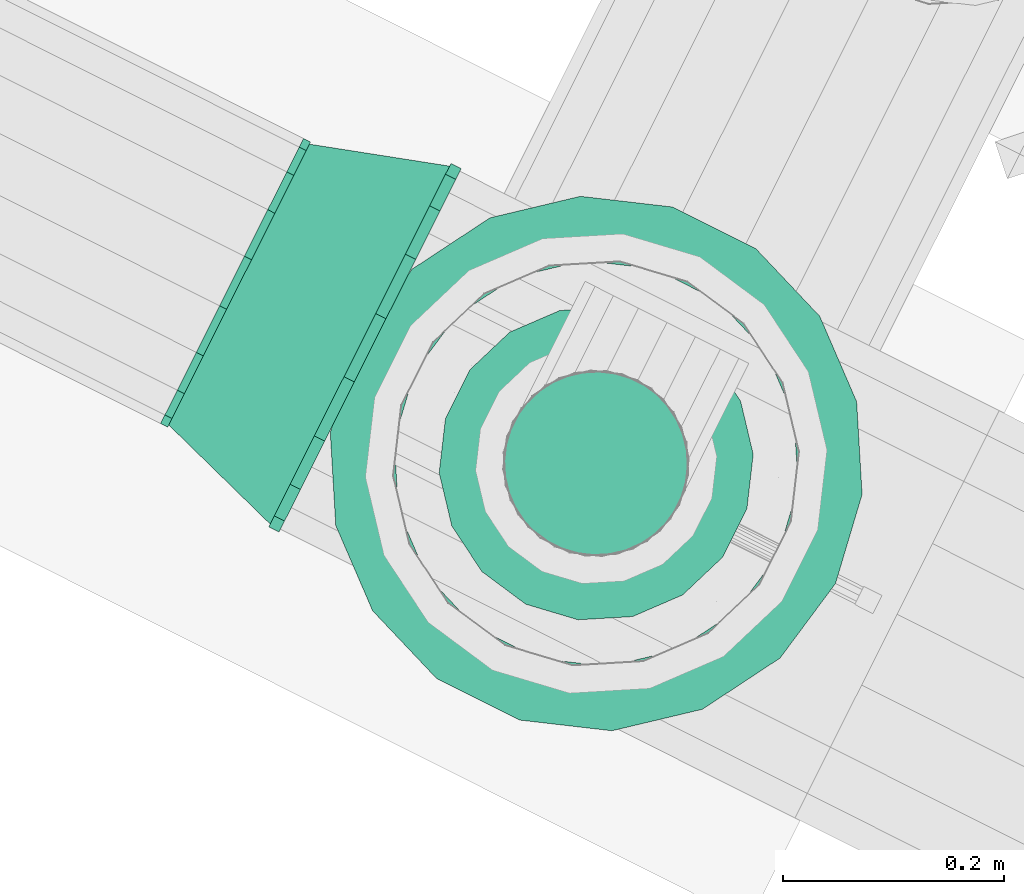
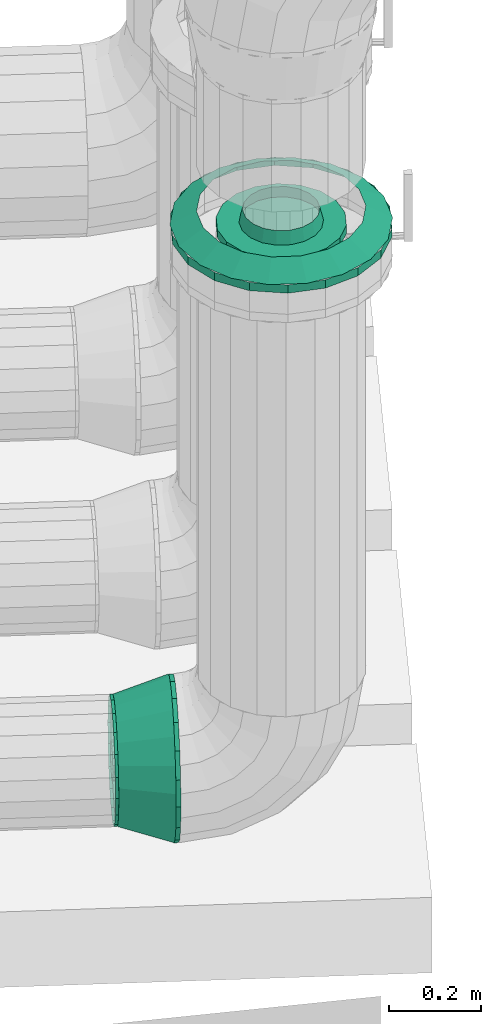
# One storey, part 19 of 152: 2 flow fittings.
"""IFC2X3 building model written with IfcOpenShell, lengths in metres."""

from ifc_helpers import new_model, si_unit, derived_unit, direction, frame, origin, place, context, subcontext, project, spatial, face_set, surface_model, source, transform, mapped, material, type_object, type_shapes, element, save


model = new_model("IFC2X3")

# Units and contexts
model_context = context("Model", 3, precision=5.2338327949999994e-05, world=origin(), true_north=direction((0.0, 1.0)))
body_context = subcontext(model_context, "Body", "Model", "MODEL_VIEW")
ifc_project = project(units=[si_unit("LENGTHUNIT", "METRE"), si_unit("AREAUNIT", "SQUARE_METRE"), si_unit("VOLUMEUNIT", "CUBIC_METRE"), si_unit("MASSUNIT", "GRAM", prefix="KILO"), si_unit("PLANEANGLEUNIT", "RADIAN"), derived_unit("THERMALTRANSMITTANCEUNIT", [(si_unit("MASSUNIT", "GRAM", prefix="KILO"), 1), (si_unit("THERMODYNAMICTEMPERATUREUNIT", "KELVIN"), -1), (si_unit("TIMEUNIT", "SECOND"), -3)])], contexts=[model_context])

# Site, building, storey
site_placement = place(None, frame((0.0, 0.0, 0.0), z_axis=(0.0, 0.0, 1.0), x_axis=(0.8939966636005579, -0.4480736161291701, 0.0)))
site = spatial("IfcSite", under=ifc_project, at=site_placement, Name="Default", CompositionType="ELEMENT")
building_placement = place(site_placement, origin())
building = spatial("IfcBuilding", under=site, at=building_placement, CompositionType="ELEMENT")
storey_placement = place(building_placement, frame((0.0, 0.0, 2.7499999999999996)))
storey = spatial("IfcBuildingStorey", under=building, at=storey_placement, Name="1. Obergeschoss", CompositionType="ELEMENT", Elevation=2.7499999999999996)

# Flow fittings
ifc_material = material(Name="IfcSurfaceStyle #9317")
distribution_element_type_1 = type_object("IfcDistributionElementType", Name="Übergangsstück 14455:Übergangsstück 14455", material=ifc_material)
shared_shape_1 = source(origin(), body_context, "Body", "SurfaceModel", [
    surface_model("IfcFaceBasedSurfaceModel", [(11.496814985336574, 5.772637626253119, 3.325154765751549), (11.496814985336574, 5.777712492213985, 3.3539357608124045), (11.486355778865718, 5.777712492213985, 3.3539357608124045), (11.486355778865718, 5.77263762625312, 3.3251547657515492), (11.496814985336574, 5.792324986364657, 3.3792453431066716), (11.486355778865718, 5.792324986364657, 3.3792453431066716), (11.496814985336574, 5.814712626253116, 3.398030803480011), (11.486355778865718, 5.814712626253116, 3.398030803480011), (11.496814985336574, 5.842175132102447, 3.4080263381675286), (11.486355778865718, 5.842175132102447, 3.4080263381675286), (11.496814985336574, 5.87140012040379, 3.408026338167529), (11.486355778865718, 5.87140012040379, 3.408026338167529), (11.496814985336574, 5.898862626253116, 3.3980308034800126), (11.486355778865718, 5.898862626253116, 3.3980308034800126), (11.496814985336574, 5.921250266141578, 3.379245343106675), (11.486355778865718, 5.921250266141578, 3.379245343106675), (11.496814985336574, 5.935862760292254, 3.353935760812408), (11.486355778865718, 5.935862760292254, 3.353935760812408), (11.496814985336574, 5.940937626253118, 3.325154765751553), (11.486355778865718, 5.940937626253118, 3.325154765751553), (11.496814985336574, 5.935862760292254, 3.296373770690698), (11.486355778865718, 5.935862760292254, 3.296373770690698), (11.496814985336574, 5.921250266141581, 3.2710641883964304), (11.486355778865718, 5.921250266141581, 3.2710641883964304), (11.496814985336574, 5.89886262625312, 3.2522787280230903), (11.486355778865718, 5.89886262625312, 3.2522787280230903), (11.496814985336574, 5.871400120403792, 3.2422831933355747), (11.486355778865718, 5.871400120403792, 3.2422831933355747), (11.496814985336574, 5.842175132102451, 3.2422831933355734), (11.486355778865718, 5.842175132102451, 3.2422831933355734), (11.496814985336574, 5.814712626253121, 3.2522787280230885), (11.486355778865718, 5.814712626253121, 3.2522787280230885), (11.496814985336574, 5.792324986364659, 3.2710641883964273), (11.486355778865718, 5.792324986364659, 3.2710641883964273), (11.496814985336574, 5.777712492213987, 3.296373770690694), (11.486355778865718, 5.777712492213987, 3.296373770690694), (11.496814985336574, 5.67263762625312, 3.3251547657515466), (11.496814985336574, 5.683743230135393, 3.388137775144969), (11.486355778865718, 5.683743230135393, 3.388137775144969), (11.486355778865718, 5.672637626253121, 3.325154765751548), (11.496814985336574, 5.715720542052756, 3.4435241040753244), (11.486355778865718, 5.715720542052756, 3.4435241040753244), (11.496814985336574, 5.764712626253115, 3.484633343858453), (11.486355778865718, 5.764712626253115, 3.484633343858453), (11.496814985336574, 5.824810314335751, 3.5065071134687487), (11.486355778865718, 5.824810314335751, 3.5065071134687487), (11.496814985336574, 5.888764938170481, 3.5065071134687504), (11.486355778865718, 5.888764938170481, 3.5065071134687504), (11.496814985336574, 5.948862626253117, 3.484633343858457), (11.486355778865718, 5.948862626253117, 3.484633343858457), (11.496814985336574, 5.997854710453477, 3.4435241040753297), (11.486355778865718, 5.997854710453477, 3.4435241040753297), (11.496814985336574, 6.029832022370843, 3.388137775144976), (11.486355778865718, 6.029832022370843, 3.388137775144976), (11.496814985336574, 6.040937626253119, 3.3251547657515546), (11.486355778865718, 6.040937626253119, 3.3251547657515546), (11.496814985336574, 6.029832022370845, 3.262171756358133), (11.486355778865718, 6.029832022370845, 3.262171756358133), (11.496814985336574, 5.997854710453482, 3.206785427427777), (11.486355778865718, 5.997854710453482, 3.206785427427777), (11.496814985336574, 5.9488626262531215, 3.165676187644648), (11.486355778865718, 5.9488626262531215, 3.165676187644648), (11.496814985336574, 5.888764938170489, 3.1438024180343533), (11.486355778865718, 5.888764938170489, 3.1438024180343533), (11.496814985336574, 5.824810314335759, 3.143802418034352), (11.486355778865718, 5.824810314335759, 3.143802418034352), (11.496814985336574, 5.7647126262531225, 3.165676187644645), (11.486355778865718, 5.7647126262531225, 3.165676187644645), (11.496814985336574, 5.715720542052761, 3.2067854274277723), (11.486355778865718, 5.715720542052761, 3.2067854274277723), (11.496814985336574, 5.683743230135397, 3.262171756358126), (11.486355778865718, 5.683743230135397, 3.262171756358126), (11.486355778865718, 5.856787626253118, 3.4093047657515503), (11.486355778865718, 5.885568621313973, 3.404229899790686), (11.363964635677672, 5.871990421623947, 3.366924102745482), (11.363964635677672, 5.856787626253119, 3.3696047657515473), (11.486355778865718, 5.910878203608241, 3.3896174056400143), (11.363964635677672, 5.885359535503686, 3.359205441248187), (11.486355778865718, 5.929663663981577, 3.367229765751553), (11.363964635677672, 5.895282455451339, 3.3473797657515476), (11.486355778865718, 5.939659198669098, 3.339767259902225), (11.363964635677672, 5.900562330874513, 3.3328734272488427), (11.486355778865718, 5.939659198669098, 3.3105422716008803), (11.363964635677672, 5.900562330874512, 3.317436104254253), (11.486355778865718, 5.92966366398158, 3.283079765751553), (11.363964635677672, 5.895282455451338, 3.3029297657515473), (11.486355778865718, 5.910878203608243, 3.26069212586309), (11.363964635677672, 5.885359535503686, 3.291104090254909), (11.486355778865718, 5.885568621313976, 3.246079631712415), (11.363964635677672, 5.871990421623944, 3.283385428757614), (11.486355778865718, 5.856787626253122, 3.24100476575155), (11.363964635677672, 5.856787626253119, 3.280704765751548), (11.486355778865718, 5.828006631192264, 3.2460796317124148), (11.363964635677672, 5.841584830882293, 3.2833854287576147), (11.486355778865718, 5.802697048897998, 3.2606921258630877), (11.363964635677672, 5.828215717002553, 3.2911040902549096), (11.486355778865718, 5.783911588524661, 3.2830797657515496), (11.363964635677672, 5.8182927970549, 3.3029297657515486), (11.486355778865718, 5.773916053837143, 3.310542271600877), (11.363964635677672, 5.813012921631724, 3.317436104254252), (11.486355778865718, 5.7739160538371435, 3.3397672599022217), (11.363964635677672, 5.813012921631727, 3.3328734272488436), (11.486355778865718, 5.783911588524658, 3.367229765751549), (11.363964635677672, 5.8182927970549, 3.347379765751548), (11.486355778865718, 5.802697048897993, 3.3896174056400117), (11.363964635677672, 5.828215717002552, 3.359205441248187), (11.486355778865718, 5.828006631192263, 3.404229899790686), (11.363964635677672, 5.841584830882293, 3.366924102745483), (11.363964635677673, 5.812337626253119, 3.325154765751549), (11.363964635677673, 5.815018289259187, 3.3403575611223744), (11.356814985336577, 5.815018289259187, 3.3403575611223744), (11.356814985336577, 5.812337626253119, 3.325154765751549), (11.363964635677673, 5.82273695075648, 3.353726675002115), (11.356814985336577, 5.82273695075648, 3.353726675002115), (11.363964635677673, 5.834562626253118, 3.3636495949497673), (11.356814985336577, 5.834562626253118, 3.3636495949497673), (11.363964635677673, 5.849068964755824, 3.3689294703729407), (11.356814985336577, 5.849068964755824, 3.3689294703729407), (11.363964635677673, 5.864506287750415, 3.3689294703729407), (11.356814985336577, 5.864506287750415, 3.3689294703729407), (11.363964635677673, 5.87901262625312, 3.3636495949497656), (11.356814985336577, 5.87901262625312, 3.3636495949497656), (11.363964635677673, 5.890838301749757, 3.3537266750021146), (11.356814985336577, 5.890838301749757, 3.3537266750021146), (11.363964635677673, 5.898556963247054, 3.340357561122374), (11.356814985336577, 5.898556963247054, 3.340357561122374), (11.363964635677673, 5.90123762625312, 3.325154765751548), (11.356814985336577, 5.90123762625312, 3.325154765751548), (11.363964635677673, 5.898556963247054, 3.309951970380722), (11.356814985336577, 5.898556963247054, 3.309951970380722), (11.363964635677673, 5.890838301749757, 3.296582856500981), (11.356814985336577, 5.890838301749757, 3.296582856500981), (11.363964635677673, 5.879012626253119, 3.2866599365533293), (11.356814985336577, 5.879012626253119, 3.2866599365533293), (11.363964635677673, 5.864506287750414, 3.2813800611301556), (11.356814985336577, 5.864506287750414, 3.2813800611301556), (11.363964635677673, 5.8490689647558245, 3.2813800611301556), (11.356814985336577, 5.8490689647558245, 3.2813800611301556), (11.363964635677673, 5.834562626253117, 3.2866599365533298), (11.356814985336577, 5.834562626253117, 3.2866599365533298), (11.363964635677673, 5.8227369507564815, 3.296582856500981), (11.356814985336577, 5.8227369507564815, 3.296582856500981), (11.363964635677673, 5.815018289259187, 3.309951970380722), (11.356814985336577, 5.815018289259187, 3.309951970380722), (11.486355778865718, 5.8567876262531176, 3.5093047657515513), (11.486355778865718, 5.919770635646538, 3.498199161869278), (11.363964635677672, 5.906192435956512, 3.460893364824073), (11.363964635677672, 5.856787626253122, 3.469604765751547), (11.486355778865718, 5.975156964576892, 3.466221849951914), (11.363964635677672, 5.949638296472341, 3.4358098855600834), (11.486355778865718, 6.016266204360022, 3.417229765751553), (11.363964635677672, 5.981884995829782, 3.397379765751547), (11.486355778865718, 6.038139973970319, 3.35713207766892), (11.363964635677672, 5.999043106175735, 3.3502382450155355), (11.486355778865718, 6.038139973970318, 3.29317745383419), (11.363964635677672, 5.9990431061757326, 3.300071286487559), (11.486355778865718, 6.016266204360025, 3.2330797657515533), (11.363964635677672, 5.981884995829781, 3.2529297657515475), (11.486355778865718, 5.975156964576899, 3.184087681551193), (11.363964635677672, 5.949638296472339, 3.2144996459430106), (11.486355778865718, 5.919770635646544, 3.152110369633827), (11.363964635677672, 5.906192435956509, 3.1894161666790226), (11.486355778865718, 5.856787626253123, 3.1410047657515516), (11.363964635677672, 5.856787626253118, 3.180704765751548), (11.486355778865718, 5.793804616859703, 3.152110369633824), (11.363964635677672, 5.807382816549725, 3.189416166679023), (11.486355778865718, 5.738418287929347, 3.1840876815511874), (11.363964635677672, 5.7639369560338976, 3.2144996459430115), (11.486355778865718, 5.697309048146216, 3.233079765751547), (11.363964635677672, 5.731690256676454, 3.2529297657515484), (11.486355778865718, 5.675435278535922, 3.2931774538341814), (11.363964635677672, 5.714532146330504, 3.3000712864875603), (11.486355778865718, 5.675435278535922, 3.357132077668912), (11.363964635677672, 5.714532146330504, 3.3502382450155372), (11.486355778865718, 5.697309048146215, 3.4172297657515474), (11.363964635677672, 5.731690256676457, 3.3973797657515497), (11.486355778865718, 5.738418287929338, 3.4662218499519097), (11.363964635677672, 5.763936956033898, 3.4358098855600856), (11.486355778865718, 5.793804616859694, 3.4981991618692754), (11.363964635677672, 5.807382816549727, 3.4608933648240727), (11.363964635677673, 5.712337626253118, 3.325154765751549), (11.363964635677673, 5.7210490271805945, 3.374559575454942), (11.356814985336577, 5.7210490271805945, 3.374559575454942), (11.356814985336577, 5.712337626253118, 3.325154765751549), (11.363964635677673, 5.746132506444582, 3.4180054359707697), (11.356814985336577, 5.746132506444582, 3.4180054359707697), (11.363964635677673, 5.78456262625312, 3.4502521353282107), (11.356814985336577, 5.78456262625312, 3.4502521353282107), (11.363964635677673, 5.831704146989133, 3.4674102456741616), (11.356814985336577, 5.831704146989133, 3.4674102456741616), (11.363964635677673, 5.88187110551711, 3.4674102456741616), (11.356814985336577, 5.88187110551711, 3.4674102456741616), (11.363964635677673, 5.929012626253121, 3.4502521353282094), (11.356814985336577, 5.929012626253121, 3.4502521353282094), (11.363964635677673, 5.967442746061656, 3.418005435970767), (11.356814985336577, 5.967442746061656, 3.418005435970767), (11.363964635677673, 5.992526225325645, 3.37455957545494), (11.356814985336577, 5.992526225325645, 3.37455957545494), (11.363964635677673, 6.00123762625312, 3.3251547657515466), (11.356814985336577, 6.00123762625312, 3.3251547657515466), (11.363964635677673, 5.992526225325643, 3.2757499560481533), (11.356814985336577, 5.992526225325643, 3.2757499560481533), (11.363964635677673, 5.967442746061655, 3.232304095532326), (11.356814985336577, 5.967442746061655, 3.232304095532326), (11.363964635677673, 5.929012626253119, 3.2000573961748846), (11.356814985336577, 5.929012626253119, 3.2000573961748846), (11.363964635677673, 5.881871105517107, 3.182899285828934), (11.356814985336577, 5.881871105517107, 3.182899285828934), (11.363964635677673, 5.831704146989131, 3.1828992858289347), (11.356814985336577, 5.831704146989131, 3.1828992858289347), (11.363964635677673, 5.784562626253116, 3.2000573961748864), (11.356814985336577, 5.784562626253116, 3.2000573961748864), (11.363964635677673, 5.746132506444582, 3.232304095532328), (11.356814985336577, 5.746132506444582, 3.232304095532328), (11.363964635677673, 5.7210490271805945, 3.275749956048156), (11.356814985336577, 5.7210490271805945, 3.275749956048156)], [face_set([[[0, 1, 2, 3]], [[1, 4, 5, 2]], [[4, 6, 7, 5]], [[6, 8, 9, 7]], [[8, 10, 11, 9]], [[10, 12, 13, 11]], [[12, 14, 15, 13]], [[14, 16, 17, 15]], [[16, 18, 19, 17]], [[18, 20, 21, 19]], [[20, 22, 23, 21]], [[22, 24, 25, 23]], [[24, 26, 27, 25]], [[26, 28, 29, 27]], [[28, 30, 31, 29]], [[30, 32, 33, 31]], [[32, 34, 35, 33]], [[34, 0, 3, 35]], [[36, 37, 38, 39]], [[37, 40, 41, 38]], [[40, 42, 43, 41]], [[42, 44, 45, 43]], [[44, 46, 47, 45]], [[46, 48, 49, 47]], [[48, 50, 51, 49]], [[50, 52, 53, 51]], [[52, 54, 55, 53]], [[54, 56, 57, 55]], [[56, 58, 59, 57]], [[58, 60, 61, 59]], [[60, 62, 63, 61]], [[62, 64, 65, 63]], [[64, 66, 67, 65]], [[66, 68, 69, 67]], [[68, 70, 71, 69]], [[70, 36, 39, 71]], [[72, 73, 74, 75]], [[73, 76, 77, 74]], [[76, 78, 79, 77]], [[78, 80, 81, 79]], [[80, 82, 83, 81]], [[82, 84, 85, 83]], [[84, 86, 87, 85]], [[86, 88, 89, 87]], [[88, 90, 91, 89]], [[90, 92, 93, 91]], [[92, 94, 95, 93]], [[94, 96, 97, 95]], [[96, 98, 99, 97]], [[98, 100, 101, 99]], [[100, 102, 103, 101]], [[102, 104, 105, 103]], [[104, 106, 107, 105]], [[106, 72, 75, 107]], [[108, 109, 110, 111]], [[109, 112, 113, 110]], [[112, 114, 115, 113]], [[114, 116, 117, 115]], [[116, 118, 119, 117]], [[118, 120, 121, 119]], [[120, 122, 123, 121]], [[122, 124, 125, 123]], [[124, 126, 127, 125]], [[126, 128, 129, 127]], [[128, 130, 131, 129]], [[130, 132, 133, 131]], [[132, 134, 135, 133]], [[134, 136, 137, 135]], [[136, 138, 139, 137]], [[138, 140, 141, 139]], [[140, 142, 143, 141]], [[142, 108, 111, 143]], [[144, 145, 146, 147]], [[145, 148, 149, 146]], [[148, 150, 151, 149]], [[150, 152, 153, 151]], [[152, 154, 155, 153]], [[154, 156, 157, 155]], [[156, 158, 159, 157]], [[158, 160, 161, 159]], [[160, 162, 163, 161]], [[162, 164, 165, 163]], [[164, 166, 167, 165]], [[166, 168, 169, 167]], [[168, 170, 171, 169]], [[170, 172, 173, 171]], [[172, 174, 175, 173]], [[174, 176, 177, 175]], [[176, 178, 179, 177]], [[178, 144, 147, 179]], [[180, 181, 182, 183]], [[181, 184, 185, 182]], [[184, 186, 187, 185]], [[186, 188, 189, 187]], [[188, 190, 191, 189]], [[190, 192, 193, 191]], [[192, 194, 195, 193]], [[194, 196, 197, 195]], [[196, 198, 199, 197]], [[198, 200, 201, 199]], [[200, 202, 203, 201]], [[202, 204, 205, 203]], [[204, 206, 207, 205]], [[206, 208, 209, 207]], [[208, 210, 211, 209]], [[210, 212, 213, 211]], [[212, 214, 215, 213]], [[214, 180, 183, 215]]])]),
])
type_shapes(distribution_element_type_1, [shared_shape_1])
flow_fitting_1_placement = place(storey_placement, frame((0.0, 0.0, -2.7499999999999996)))
element("IfcFlowFitting", 1, at=flow_fitting_1_placement, inside=storey, type_object=distribution_element_type_1, material=ifc_material, Name="Übergangsstück", ObjectType="Übergangsstück", context=body_context, shape_type="MappedRepresentation", body=[
    mapped(shared_shape_1, transform((0.0, 0.0, 0.0), scale=1.0)),
])
distribution_element_type_2 = type_object("IfcDistributionElementType", Name="Flansch 15062:Flansch 15062", material=ifc_material)
shared_shape_2 = source(origin(), body_context, "Body", "SurfaceModel", [
    surface_model("IfcFaceBasedSurfaceModel", [(11.725814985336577, 5.999287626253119, 4.718303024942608), (11.677077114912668, 5.99069382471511, 4.718303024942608), (11.677077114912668, 5.99069382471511, 4.740303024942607), (11.725814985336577, 5.999287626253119, 4.740303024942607), (11.634217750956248, 5.965948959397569, 4.718303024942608), (11.634217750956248, 5.965948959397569, 4.740303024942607), (11.602406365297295, 5.928037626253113, 4.718303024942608), (11.602406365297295, 5.928037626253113, 4.740303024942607), (11.585479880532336, 5.881532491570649, 4.718303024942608), (11.585479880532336, 5.881532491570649, 4.740303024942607), (11.585479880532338, 5.832042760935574, 4.718303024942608), (11.585479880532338, 5.832042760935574, 4.740303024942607), (11.602406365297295, 5.785537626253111, 4.718303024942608), (11.602406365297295, 5.785537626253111, 4.740303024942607), (11.634217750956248, 5.747626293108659, 4.718303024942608), (11.634217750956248, 5.747626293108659, 4.740303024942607), (11.677077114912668, 5.7228814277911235, 4.718303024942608), (11.677077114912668, 5.7228814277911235, 4.740303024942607), (11.725814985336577, 5.714287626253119, 4.718303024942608), (11.725814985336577, 5.714287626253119, 4.740303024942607), (11.774552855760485, 5.722881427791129, 4.718303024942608), (11.774552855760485, 5.722881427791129, 4.740303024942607), (11.817412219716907, 5.7476262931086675, 4.718303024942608), (11.817412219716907, 5.7476262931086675, 4.740303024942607), (11.849223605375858, 5.785537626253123, 4.718303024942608), (11.849223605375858, 5.785537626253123, 4.740303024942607), (11.866150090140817, 5.832042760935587, 4.718303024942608), (11.866150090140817, 5.832042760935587, 4.740303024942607), (11.866150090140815, 5.881532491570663, 4.718303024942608), (11.866150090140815, 5.881532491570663, 4.740303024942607), (11.849223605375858, 5.928037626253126, 4.718303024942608), (11.849223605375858, 5.928037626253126, 4.740303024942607), (11.817412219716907, 5.965948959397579, 4.718303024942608), (11.817412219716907, 5.965948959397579, 4.740303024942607), (11.774552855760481, 5.990693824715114, 4.718303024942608), (11.774552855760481, 5.990693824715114, 4.740303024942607), (11.725814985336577, 5.856787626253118, 4.740303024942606), (11.633814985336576, 5.856787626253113, 4.740303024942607), (11.639363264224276, 5.8253217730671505, 4.740303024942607), (11.646739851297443, 5.828006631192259, 4.773303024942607), (11.641664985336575, 5.856787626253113, 4.773303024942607), (11.655338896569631, 5.797651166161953, 4.740303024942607), (11.661352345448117, 5.80269704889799, 4.773303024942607), (11.679814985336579, 5.777113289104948, 4.740303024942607), (11.683739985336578, 5.7839115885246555, 4.773303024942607), (11.709839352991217, 5.766185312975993, 4.740303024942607), (11.711202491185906, 5.773916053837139, 4.773303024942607), (11.741790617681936, 5.766185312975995, 4.740303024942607), (11.740427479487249, 5.773916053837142, 4.773303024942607), (11.77181498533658, 5.777113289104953, 4.740303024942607), (11.767889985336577, 5.783911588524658, 4.773303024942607), (11.79629107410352, 5.79765116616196, 4.740303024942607), (11.790277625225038, 5.802697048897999, 4.773303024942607), (11.812266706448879, 5.82532177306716, 4.740303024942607), (11.80489011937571, 5.828006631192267, 4.773303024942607), (11.817814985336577, 5.856787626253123, 4.740303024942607), (11.809964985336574, 5.856787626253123, 4.773303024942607), (11.812266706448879, 5.888253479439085, 4.740303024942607), (11.804890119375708, 5.885568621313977, 4.773303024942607), (11.796291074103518, 5.915924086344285, 4.740303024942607), (11.790277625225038, 5.910878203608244, 4.773303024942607), (11.771814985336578, 5.936461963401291, 4.740303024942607), (11.767889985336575, 5.929663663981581, 4.773303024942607), (11.741790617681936, 5.947389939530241, 4.740303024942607), (11.740427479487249, 5.939659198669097, 4.773303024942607), (11.709839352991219, 5.947389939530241, 4.740303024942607), (11.711202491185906, 5.939659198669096, 4.773303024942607), (11.679814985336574, 5.936461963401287, 4.740303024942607), (11.683739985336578, 5.929663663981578, 4.773303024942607), (11.655338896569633, 5.915924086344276, 4.740303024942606), (11.661352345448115, 5.910878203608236, 4.7733030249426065), (11.639363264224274, 5.888253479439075, 4.740303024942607), (11.646739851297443, 5.885568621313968, 4.773303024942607), (11.725814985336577, 6.09928762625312, 4.718303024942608), (11.6428751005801, 6.084663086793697, 4.718303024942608), (11.6428751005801, 6.084663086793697, 4.740303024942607), (11.725814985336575, 6.09928762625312, 4.740303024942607), (11.569938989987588, 6.042553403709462, 4.718303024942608), (11.569938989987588, 6.042553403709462, 4.740303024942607), (11.515803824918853, 5.978037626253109, 4.718303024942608), (11.515803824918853, 5.978037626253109, 4.740303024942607), (11.486999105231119, 5.898897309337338, 4.718303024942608), (11.486999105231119, 5.898897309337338, 4.740303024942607), (11.486999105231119, 5.814677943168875, 4.718303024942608), (11.486999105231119, 5.814677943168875, 4.740303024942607), (11.515803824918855, 5.735537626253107, 4.718303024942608), (11.515803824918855, 5.735537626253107, 4.740303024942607), (11.569938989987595, 5.671021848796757, 4.718303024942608), (11.569938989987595, 5.671021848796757, 4.740303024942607), (11.6428751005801, 5.62891216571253, 4.718303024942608), (11.6428751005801, 5.62891216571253, 4.740303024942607), (11.725814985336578, 5.614287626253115, 4.718303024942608), (11.725814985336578, 5.614287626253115, 4.740303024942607), (11.808754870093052, 5.628912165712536, 4.718303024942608), (11.808754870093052, 5.628912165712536, 4.740303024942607), (11.881690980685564, 5.671021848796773, 4.718303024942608), (11.881690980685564, 5.671021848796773, 4.740303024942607), (11.935826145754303, 5.7355376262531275, 4.718303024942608), (11.935826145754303, 5.7355376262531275, 4.740303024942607), (11.964630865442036, 5.814677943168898, 4.718303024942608), (11.964630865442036, 5.814677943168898, 4.740303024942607), (11.964630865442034, 5.898897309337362, 4.718303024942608), (11.964630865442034, 5.898897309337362, 4.740303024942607), (11.9358261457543, 5.978037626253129, 4.718303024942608), (11.9358261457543, 5.978037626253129, 4.740303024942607), (11.881690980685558, 6.04255340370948, 4.718303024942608), (11.881690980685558, 6.04255340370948, 4.740303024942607), (11.80875487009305, 6.084663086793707, 4.718303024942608), (11.80875487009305, 6.084663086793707, 4.740303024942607), (11.483314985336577, 5.856787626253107, 4.740303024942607), (11.497939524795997, 5.773847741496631, 4.740303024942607), (11.552770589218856, 5.7938046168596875, 4.773303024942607), (11.54166498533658, 5.85678762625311, 4.773303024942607), (11.540049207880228, 5.700911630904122, 4.740303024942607), (11.58474790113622, 5.738418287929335, 4.773303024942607), (11.604564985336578, 5.646776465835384, 4.740303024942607), (11.633739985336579, 5.697309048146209, 4.773303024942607), (11.683705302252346, 5.617971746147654, 4.740303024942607), (11.69383767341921, 5.675435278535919, 4.773303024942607), (11.767924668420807, 5.617971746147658, 4.740303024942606), (11.757792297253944, 5.675435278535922, 4.7733030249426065), (11.847064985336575, 5.646776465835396, 4.740303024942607), (11.817889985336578, 5.697309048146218, 4.773303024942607), (11.91158076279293, 5.70091163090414, 4.740303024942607), (11.866882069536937, 5.738418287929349, 4.773303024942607), (11.953690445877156, 5.773847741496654, 4.740303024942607), (11.898859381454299, 5.793804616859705, 4.773303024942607), (11.968314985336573, 5.856787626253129, 4.740303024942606), (11.909964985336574, 5.856787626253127, 4.7733030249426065), (11.953690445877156, 5.939727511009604, 4.740303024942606), (11.898859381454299, 5.9197706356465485, 4.773303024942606), (11.91158076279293, 6.0126636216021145, 4.740303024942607), (11.866882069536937, 5.975156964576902, 4.773303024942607), (11.847064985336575, 6.0667987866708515, 4.740303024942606), (11.817889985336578, 6.01626620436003, 4.7733030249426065), (11.767924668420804, 6.095603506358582, 4.740303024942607), (11.75779229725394, 6.038139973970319, 4.773303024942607), (11.683705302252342, 6.095603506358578, 4.740303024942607), (11.693837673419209, 6.038139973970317, 4.773303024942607), (11.604564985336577, 6.066798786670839, 4.740303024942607), (11.633739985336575, 6.0162662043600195, 4.773303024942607), (11.540049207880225, 6.012663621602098, 4.740303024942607), (11.584747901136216, 5.9751569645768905, 4.773303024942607), (11.497939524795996, 5.939727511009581, 4.740303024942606), (11.552770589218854, 5.919770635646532, 4.7733030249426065)], [face_set([[[0, 1, 2, 3]], [[1, 4, 5, 2]], [[4, 6, 7, 5]], [[6, 8, 9, 7]], [[8, 10, 11, 9]], [[10, 12, 13, 11]], [[12, 14, 15, 13]], [[14, 16, 17, 15]], [[16, 18, 19, 17]], [[18, 20, 21, 19]], [[20, 22, 23, 21]], [[22, 24, 25, 23]], [[24, 26, 27, 25]], [[26, 28, 29, 27]], [[28, 30, 31, 29]], [[30, 32, 33, 31]], [[32, 34, 35, 33]], [[34, 0, 3, 35]], [[36, 35, 3]], [[36, 33, 35]], [[36, 31, 33]], [[36, 29, 31]], [[36, 27, 29]], [[36, 25, 27]], [[36, 23, 25]], [[36, 21, 23]], [[36, 19, 21]], [[36, 17, 19]], [[36, 15, 17]], [[36, 13, 15]], [[36, 11, 13]], [[36, 9, 11]], [[36, 7, 9]], [[36, 5, 7]], [[36, 2, 5]], [[36, 3, 2]], [[37, 38, 39, 40]], [[38, 41, 42, 39]], [[41, 43, 44, 42]], [[43, 45, 46, 44]], [[45, 47, 48, 46]], [[47, 49, 50, 48]], [[49, 51, 52, 50]], [[51, 53, 54, 52]], [[53, 55, 56, 54]], [[55, 57, 58, 56]], [[57, 59, 60, 58]], [[59, 61, 62, 60]], [[61, 63, 64, 62]], [[63, 65, 66, 64]], [[65, 67, 68, 66]], [[67, 69, 70, 68]], [[69, 71, 72, 70]], [[71, 37, 40, 72]], [[73, 74, 75, 76]], [[74, 77, 78, 75]], [[77, 79, 80, 78]], [[79, 81, 82, 80]], [[81, 83, 84, 82]], [[83, 85, 86, 84]], [[85, 87, 88, 86]], [[87, 89, 90, 88]], [[89, 91, 92, 90]], [[91, 93, 94, 92]], [[93, 95, 96, 94]], [[95, 97, 98, 96]], [[97, 99, 100, 98]], [[99, 101, 102, 100]], [[101, 103, 104, 102]], [[103, 105, 106, 104]], [[105, 107, 108, 106]], [[107, 73, 76, 108]], [[109, 110, 111, 112]], [[110, 113, 114, 111]], [[113, 115, 116, 114]], [[115, 117, 118, 116]], [[117, 119, 120, 118]], [[119, 121, 122, 120]], [[121, 123, 124, 122]], [[123, 125, 126, 124]], [[125, 127, 128, 126]], [[127, 129, 130, 128]], [[129, 131, 132, 130]], [[131, 133, 134, 132]], [[133, 135, 136, 134]], [[135, 137, 138, 136]], [[137, 139, 140, 138]], [[139, 141, 142, 140]], [[141, 143, 144, 142]], [[143, 109, 112, 144]]])]),
])
type_shapes(distribution_element_type_2, [shared_shape_2])
flow_fitting_2_placement = place(storey_placement, frame((0.0, 0.0, -2.7499999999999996)))
element("IfcFlowFitting", 2, at=flow_fitting_2_placement, inside=storey, type_object=distribution_element_type_2, material=ifc_material, Name="Flansch", ObjectType="Flansch", context=body_context, shape_type="MappedRepresentation", body=[
    mapped(shared_shape_2, transform((0.0, 0.0, 0.0), scale=1.0)),
])

save(model, "model.ifc")
